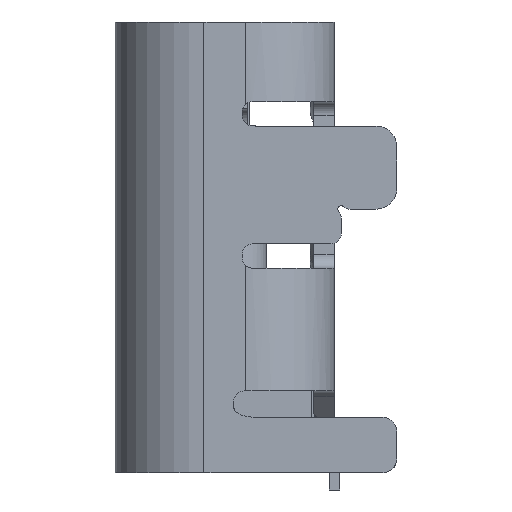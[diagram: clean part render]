
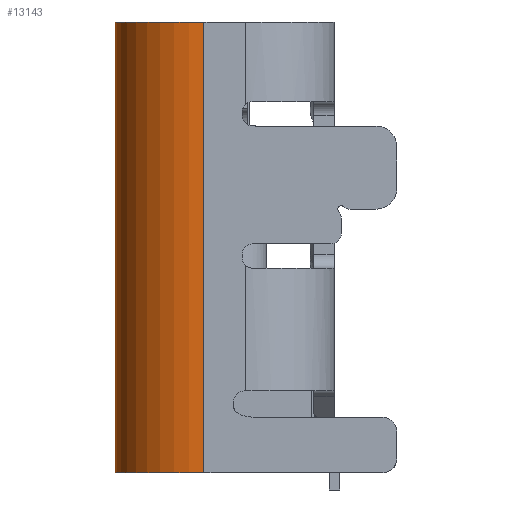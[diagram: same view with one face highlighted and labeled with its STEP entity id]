
A CAD part, left-side view. The second image highlights one B-rep face of the part: STEP entity #13143.
In plain terms, the highlighted cylindrical face has radius 1.28 mm (diameter 2.56 mm), a partial arc.
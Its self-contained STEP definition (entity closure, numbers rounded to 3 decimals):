
#419=CARTESIAN_POINT('',(-4.192,0.959,10.613));
#420=DIRECTION('',(0.,0.,1.));
#421=DIRECTION('',(0.,1.,0.));
#422=AXIS2_PLACEMENT_3D('',#419,#420,#421);
#551=DIRECTION('',(0.,0.,-1.));
#552=VECTOR('',#551,6.5);
#553=CARTESIAN_POINT('',(-4.192,2.239,10.613));
#554=LINE('',#553,#552);
#555=DIRECTION('',(0.,0.,1.));
#556=VECTOR('',#555,6.5);
#557=CARTESIAN_POINT('',(-5.472,0.959,4.113));
#558=LINE('',#557,#556);
#568=CARTESIAN_POINT('',(-4.192,0.959,4.113));
#569=DIRECTION('',(0.,0.,-1.));
#570=DIRECTION('',(-1.,0.,0.));
#571=AXIS2_PLACEMENT_3D('',#568,#569,#570);
#9880=CARTESIAN_POINT('',(-5.472,0.959,
4.113));
#9881=CARTESIAN_POINT('',(-4.192,2.239,4.113));
#9882=VERTEX_POINT('',#9880);
#9883=VERTEX_POINT('',#9881);
#9936=CARTESIAN_POINT('',(-5.472,0.959,
10.613));
#9938=VERTEX_POINT('',#9936);
#10783=CARTESIAN_POINT('',(-4.192,2.239,
10.613));
#10784=VERTEX_POINT('',#10783);
#13130=CARTESIAN_POINT('',(-4.192,0.959,
9.113));
#13131=DIRECTION('',(0.,0.,1.));
#13132=DIRECTION('',(1.,0.,0.));
#13133=AXIS2_PLACEMENT_3D('',#13130,#13131,#13132);
#13134=CYLINDRICAL_SURFACE('',#13133,1.28);
#13136=ORIENTED_EDGE('',*,*,#13135,.T.);
#13137=ORIENTED_EDGE('',*,*,#13006,.F.);
#13138=ORIENTED_EDGE('',*,*,#12979,.T.);
#13140=ORIENTED_EDGE('',*,*,#13139,.F.);
#13141=EDGE_LOOP('',(#13136,#13137,#13138,#13140));
#13142=FACE_OUTER_BOUND('',#13141,.F.);
#423=CIRCLE('',#422,1.28);
#572=CIRCLE('',#571,1.28);
#12979=EDGE_CURVE('',#10784,#9938,#423,.T.);
#13006=EDGE_CURVE('',#10784,#9883,#554,.T.);
#13135=EDGE_CURVE('',#9882,#9883,#572,.T.);
#13139=EDGE_CURVE('',#9882,#9938,#558,.T.);
#13143=ADVANCED_FACE('',(#13142),#13134,.T.);
